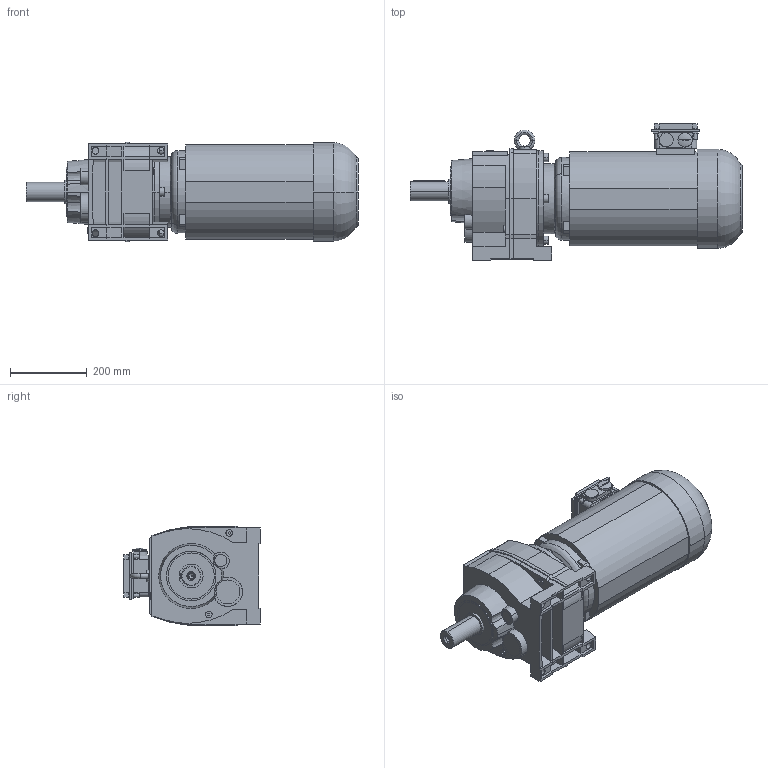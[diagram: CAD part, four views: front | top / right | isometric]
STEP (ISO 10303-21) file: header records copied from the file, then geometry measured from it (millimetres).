
FILE_DESCRIPTION(('STEP AP214'),'1');
FILE_NAME('STEP-File.stp','2018-01-01T00:00:00',(' '),('KEB'),' ','KEB-DRIVE',' ');
FILE_SCHEMA(('AUTOMOTIVE_DESIGN { 1 0 10303 214 1 1 1 1 }'));
Length unit declared in the file: millimetre
Products named in the file (9): g5a; w5_we_50x100; ca5; dm132_kkn; kk10; PLUG_M32; SCREW-PLUG_M32; ndm132; G53A DM132SB4§CAD13
Assembly tree (8 placements, depth 2):
  G53A DM132SB4§CAD13
    g5a
    w5_we_50x100
    ca5
    dm132_kkn
    kk10
    PLUG_M32
    SCREW-PLUG_M32
    ndm132
Bounding box: 864 x 355.6 x 259 mm (x, y, z)
Volume: 37726585 mm3; surface area: 1236276.3 mm2
Topology: 8 solids, 8 shells, 392 faces, 1019 edges, 672 vertices
Faces by surface type: plane 257, cylinder 98, torus 19, cone 18
Entity records: 13492 total; most frequent: CARTESIAN_POINT 3879, ORIENTED_EDGE 2034, DIRECTION 1800, EDGE_CURVE 1017, VECTOR 686, LINE 686, VERTEX_POINT 672, AXIS2_PLACEMENT_3D 557
